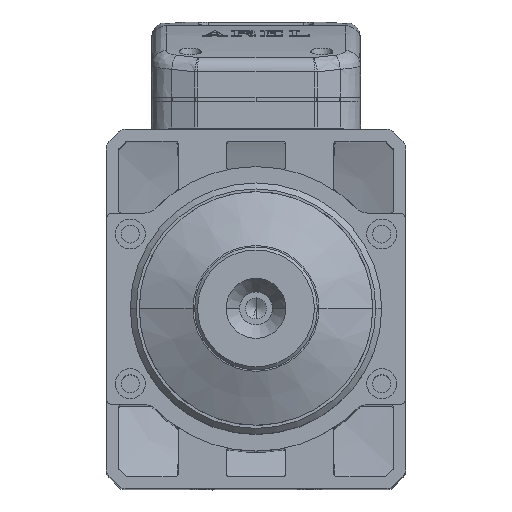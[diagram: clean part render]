
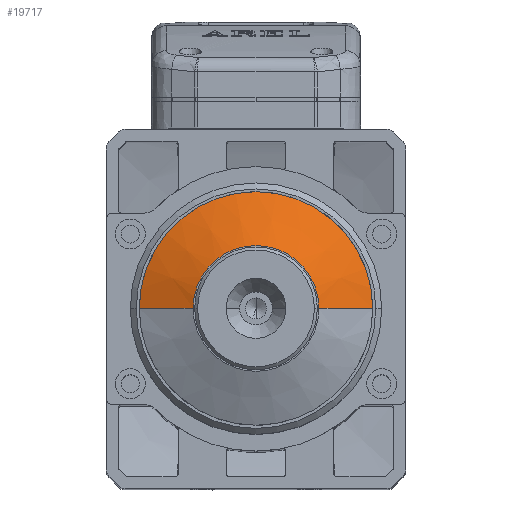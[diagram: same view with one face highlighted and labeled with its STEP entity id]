
A CAD part, top view. The second image highlights one B-rep face of the part: STEP entity #19717.
In plain terms, the highlighted conical face has half-angle 66.038 degrees and reference radius 39 mm.
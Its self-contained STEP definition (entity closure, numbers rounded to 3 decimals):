
#740 = DIRECTION ( 'NONE',  ( -1., 0., 0. ) ) ;
#981 = ORIENTED_EDGE ( 'NONE', *, *, #1787, .F. ) ;
#1064 = CARTESIAN_POINT ( 'NONE',  ( 0., 0., -8. ) ) ;
#1787 = EDGE_CURVE ( 'NONE', #50765, #20205, #50933, .T. ) ;
#3125 = VERTEX_POINT ( 'NONE', #28785 ) ;
#6508 = DIRECTION ( 'NONE',  ( 0., 0., -1. ) ) ;
#9053 = EDGE_CURVE ( 'NONE', #37324, #20205, #40926, .T. ) ;
#12284 = CARTESIAN_POINT ( 'NONE',  ( 0., 0., -8. ) ) ;
#13832 = AXIS2_PLACEMENT_3D ( 'NONE', #12284, #6508, #740 ) ;
#19453 = EDGE_LOOP ( 'NONE', ( #27197, #21867, #47009, #981 ) ) ;
#19717 = ADVANCED_FACE ( 'NONE', ( #21126 ), #38623, .T. ) ;
#20205 = VERTEX_POINT ( 'NONE', #53009 ) ;
#20482 = CARTESIAN_POINT ( 'NONE',  ( -21., 0., 0. ) ) ;
#20897 = EDGE_CURVE ( 'NONE', #3125, #50765, #52034, .T. ) ;
#21126 = FACE_OUTER_BOUND ( 'NONE', #19453, .T. ) ;
#21867 = ORIENTED_EDGE ( 'NONE', *, *, #55467, .T. ) ;
#24251 = DIRECTION ( 'NONE',  ( 1., 0., 0. ) ) ;
#26121 = VECTOR ( 'NONE', #39348, 1000. ) ;
#26557 = CARTESIAN_POINT ( 'NONE',  ( 39., 0., -8. ) ) ;
#27197 = ORIENTED_EDGE ( 'NONE', *, *, #20897, .F. ) ;
#28785 = CARTESIAN_POINT ( 'NONE',  ( 21., 0., 0. ) ) ;
#34348 = DIRECTION ( 'NONE',  ( 1., 0., 0. ) ) ;
#35724 = VECTOR ( 'NONE', #40260, 1000. ) ;
#37324 = VERTEX_POINT ( 'NONE', #26557 ) ;
#38623 = CONICAL_SURFACE ( 'NONE', #13832, 39., 1.153 ) ;
#39348 = DIRECTION ( 'NONE',  ( -0.914, 0., -0.406 ) ) ;
#39620 = DIRECTION ( 'NONE',  ( 0., 0., 1. ) ) ;
#40106 = DIRECTION ( 'NONE',  ( 0., 0., 1. ) ) ;
#40260 = DIRECTION ( 'NONE',  ( 0.914, 0., -0.406 ) ) ;
#40926 = CIRCLE ( 'NONE', #43105, 39. ) ;
#43105 = AXIS2_PLACEMENT_3D ( 'NONE', #1064, #40106, #34348 ) ;
#45103 = CARTESIAN_POINT ( 'NONE',  ( -39., 0., -8. ) ) ;
#45395 = CARTESIAN_POINT ( 'NONE',  ( 0., 0., 0. ) ) ;
#46050 = CARTESIAN_POINT ( 'NONE',  ( 39., 0., -8. ) ) ;
#47009 = ORIENTED_EDGE ( 'NONE', *, *, #9053, .T. ) ;
#48834 = AXIS2_PLACEMENT_3D ( 'NONE', #45395, #39620, #24251 ) ;
#50765 = VERTEX_POINT ( 'NONE', #20482 ) ;
#50933 = LINE ( 'NONE', #45103, #26121 ) ;
#51849 = LINE ( 'NONE', #46050, #35724 ) ;
#52034 = CIRCLE ( 'NONE', #48834, 21. ) ;
#53009 = CARTESIAN_POINT ( 'NONE',  ( -39., 0., -8. ) ) ;
#55467 = EDGE_CURVE ( 'NONE', #3125, #37324, #51849, .T. ) ;
